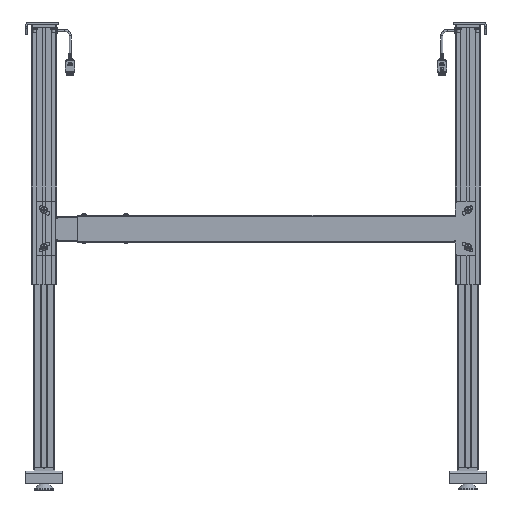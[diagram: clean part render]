
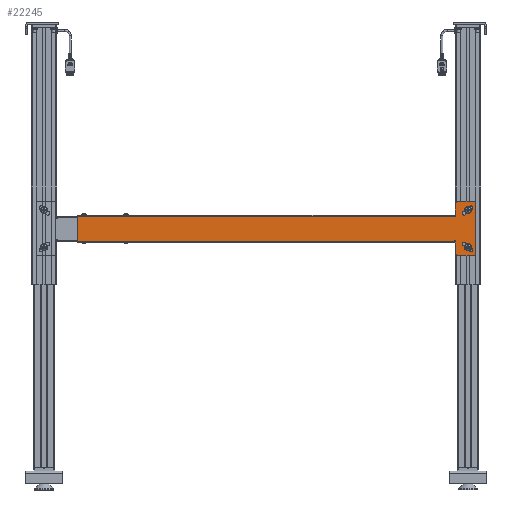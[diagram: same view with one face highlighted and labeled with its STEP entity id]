
A CAD part, left-side view. The second image highlights one B-rep face of the part: STEP entity #22245.
In plain terms, the highlighted planar face has unit normal (-1, 0, 0) as drawn and (0, 0, -1) by its records, which use the part's own axes.
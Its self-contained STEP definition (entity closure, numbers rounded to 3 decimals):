
#1613=CIRCLE('',#30230,4.75);
#1615=CIRCLE('',#30235,4.75);
#1623=CIRCLE('',#30252,4.75);
#1624=CIRCLE('',#30253,4.75);
#1625=CIRCLE('',#30254,10.);
#1626=CIRCLE('',#30255,10.);
#1627=CIRCLE('',#30256,1.75);
#1628=CIRCLE('',#30257,1.75);
#7229=ORIENTED_EDGE('',*,*,#10992,.F.);
#7230=ORIENTED_EDGE('',*,*,#10956,.F.);
#7231=ORIENTED_EDGE('',*,*,#10960,.F.);
#7232=ORIENTED_EDGE('',*,*,#10963,.F.);
#7233=ORIENTED_EDGE('',*,*,#10993,.F.);
#7234=ORIENTED_EDGE('',*,*,#10946,.F.);
#7235=ORIENTED_EDGE('',*,*,#10950,.F.);
#7236=ORIENTED_EDGE('',*,*,#10953,.F.);
#7237=ORIENTED_EDGE('',*,*,#10975,.F.);
#7238=ORIENTED_EDGE('',*,*,#10994,.T.);
#7239=ORIENTED_EDGE('',*,*,#10970,.F.);
#7240=ORIENTED_EDGE('',*,*,#10968,.F.);
#7241=ORIENTED_EDGE('',*,*,#10983,.F.);
#7242=ORIENTED_EDGE('',*,*,#10995,.T.);
#7243=ORIENTED_EDGE('',*,*,#10977,.F.);
#7244=ORIENTED_EDGE('',*,*,#10996,.F.);
#7245=ORIENTED_EDGE('',*,*,#10902,.T.);
#7246=ORIENTED_EDGE('',*,*,#10985,.F.);
#7247=ORIENTED_EDGE('',*,*,#10944,.T.);
#7248=ORIENTED_EDGE('',*,*,#10997,.F.);
#10902=EDGE_CURVE('',#13239,#13238,#15197,.T.);
#10944=EDGE_CURVE('',#13268,#13269,#15218,.T.);
#10946=EDGE_CURVE('',#13270,#13271,#15219,.T.);
#10950=EDGE_CURVE('',#13274,#13270,#1613,.T.);
#10953=EDGE_CURVE('',#13276,#13274,#15224,.T.);
#10956=EDGE_CURVE('',#13278,#13279,#15227,.T.);
#10960=EDGE_CURVE('',#13282,#13278,#1615,.T.);
#10963=EDGE_CURVE('',#13284,#13282,#15232,.T.);
#10968=EDGE_CURVE('',#13288,#13289,#15237,.T.);
#10970=EDGE_CURVE('',#13289,#13290,#15239,.T.);
#10975=EDGE_CURVE('',#13294,#13295,#15244,.T.);
#10977=EDGE_CURVE('',#13296,#13297,#15246,.T.);
#10983=EDGE_CURVE('',#13301,#13288,#15252,.T.);
#10985=EDGE_CURVE('',#13268,#13238,#15254,.T.);
#10992=EDGE_CURVE('',#13279,#13284,#1623,.T.);
#10993=EDGE_CURVE('',#13271,#13276,#1624,.T.);
#10994=EDGE_CURVE('',#13294,#13290,#1625,.T.);
#10995=EDGE_CURVE('',#13301,#13297,#1626,.T.);
#10996=EDGE_CURVE('',#13239,#13296,#1627,.T.);
#10997=EDGE_CURVE('',#13295,#13269,#1628,.T.);
#13238=VERTEX_POINT('',#44223);
#13239=VERTEX_POINT('',#44225);
#13268=VERTEX_POINT('',#44312);
#13269=VERTEX_POINT('',#44314);
#13270=VERTEX_POINT('',#44323);
#13271=VERTEX_POINT('',#44324);
#13274=VERTEX_POINT('',#44332);
#13276=VERTEX_POINT('',#44338);
#13278=VERTEX_POINT('',#44344);
#13279=VERTEX_POINT('',#44345);
#13282=VERTEX_POINT('',#44353);
#13284=VERTEX_POINT('',#44359);
#13288=VERTEX_POINT('',#44368);
#13289=VERTEX_POINT('',#44370);
#13290=VERTEX_POINT('',#44374);
#13294=VERTEX_POINT('',#44383);
#13295=VERTEX_POINT('',#44385);
#13296=VERTEX_POINT('',#44389);
#13297=VERTEX_POINT('',#44390);
#13301=VERTEX_POINT('',#44400);
#15197=LINE('',#44224,#17062);
#15218=LINE('',#44315,#17083);
#15219=LINE('',#44322,#17084);
#15224=LINE('',#44337,#17089);
#15227=LINE('',#44343,#17092);
#15232=LINE('',#44358,#17097);
#15237=LINE('',#44369,#17102);
#15239=LINE('',#44373,#17104);
#15244=LINE('',#44384,#17109);
#15246=LINE('',#44388,#17111);
#15252=LINE('',#44401,#17117);
#15254=LINE('',#44404,#17119);
#17062=VECTOR('',#35710,1000.);
#17083=VECTOR('',#35793,1000.);
#17084=VECTOR('',#35798,1000.);
#17089=VECTOR('',#35811,1000.);
#17092=VECTOR('',#35816,1000.);
#17097=VECTOR('',#35829,1000.);
#17102=VECTOR('',#35836,1000.);
#17104=VECTOR('',#35840,1000.);
#17109=VECTOR('',#35847,1000.);
#17111=VECTOR('',#35851,1000.);
#17117=VECTOR('',#35859,1000.);
#17119=VECTOR('',#35863,1000.);
#18654=EDGE_LOOP('',(#7229,#7230,#7231,#7232));
#18655=EDGE_LOOP('',(#7233,#7234,#7235,#7236));
#18656=EDGE_LOOP('',(#7237,#7238,#7239,#7240,#7241,#7242,#7243,#7244,#7245,
#7246,#7247,#7248));
#20237=FACE_BOUND('',#18654,.T.);
#20238=FACE_BOUND('',#18655,.T.);
#20239=FACE_BOUND('',#18656,.T.);
#21143=PLANE('',#30251);
#22245=ADVANCED_FACE('',(#20237,#20238,#20239),#21143,.T.);
#30230=AXIS2_PLACEMENT_3D('',#44331,#35804,#35805);
#30235=AXIS2_PLACEMENT_3D('',#44352,#35822,#35823);
#30251=AXIS2_PLACEMENT_3D('',#44412,#35878,#35879);
#30252=AXIS2_PLACEMENT_3D('',#44413,#35880,#35881);
#30253=AXIS2_PLACEMENT_3D('',#44414,#35882,#35883);
#30254=AXIS2_PLACEMENT_3D('',#44415,#35884,#35885);
#30255=AXIS2_PLACEMENT_3D('',#44416,#35886,#35887);
#30256=AXIS2_PLACEMENT_3D('',#44417,#35888,#35889);
#30257=AXIS2_PLACEMENT_3D('',#44418,#35890,#35891);
#35710=DIRECTION('',(1.,0.,0.));
#35793=DIRECTION('',(-1.,0.,0.));
#35798=DIRECTION('',(0.766,0.643,0.));
#35804=DIRECTION('',(0.,0.,-1.));
#35805=DIRECTION('',(-1.,0.,0.));
#35811=DIRECTION('',(-0.766,-0.643,0.));
#35816=DIRECTION('',(0.766,-0.643,0.));
#35822=DIRECTION('',(0.,0.,-1.));
#35823=DIRECTION('',(-1.,0.,0.));
#35829=DIRECTION('',(-0.766,0.643,0.));
#35836=DIRECTION('',(0.,-1.,0.));
#35840=DIRECTION('',(1.,0.,0.));
#35847=DIRECTION('',(0.,1.,0.));
#35851=DIRECTION('',(0.,1.,0.));
#35859=DIRECTION('',(-1.,0.,0.));
#35863=DIRECTION('',(0.,1.,0.));
#35878=DIRECTION('',(0.,0.,-1.));
#35879=DIRECTION('',(-1.,0.,0.));
#35880=DIRECTION('',(0.,0.,-1.));
#35881=DIRECTION('',(-1.,0.,0.));
#35882=DIRECTION('',(0.,0.,-1.));
#35883=DIRECTION('',(-1.,0.,0.));
#35884=DIRECTION('',(0.,0.,-1.));
#35885=DIRECTION('',(-1.,0.,0.));
#35886=DIRECTION('',(0.,0.,-1.));
#35887=DIRECTION('',(-1.,0.,0.));
#35888=DIRECTION('',(0.,0.,-1.));
#35889=DIRECTION('',(-1.,0.,0.));
#35890=DIRECTION('',(0.,0.,-1.));
#35891=DIRECTION('',(1.,0.,0.));
#44223=CARTESIAN_POINT('',(924.,29.9,-2.5));
#44224=CARTESIAN_POINT('',(26.,29.9,-2.5));
#44225=CARTESIAN_POINT('',(26.747,29.9,-2.5));
#44312=CARTESIAN_POINT('',(924.,-29.9,-2.5));
#44314=CARTESIAN_POINT('',(26.754,-29.9,-2.5));
#44315=CARTESIAN_POINT('',(924.,-29.9,-2.5));
#44322=CARTESIAN_POINT('',(16.196,-19.301,-2.5));
#44323=CARTESIAN_POINT('',(-16.053,-46.361,-2.5));
#44324=CARTESIAN_POINT('',(-0.349,-33.184,-2.5));
#44331=CARTESIAN_POINT('',(-13.,-50.,-2.5));
#44332=CARTESIAN_POINT('',(-9.947,-53.639,-2.5));
#44337=CARTESIAN_POINT('',(22.302,-26.579,-2.5));
#44338=CARTESIAN_POINT('',(5.757,-40.462,-2.5));
#44343=CARTESIAN_POINT('',(22.302,26.579,-2.5));
#44344=CARTESIAN_POINT('',(-9.947,53.639,-2.5));
#44345=CARTESIAN_POINT('',(5.757,40.462,-2.5));
#44352=CARTESIAN_POINT('',(-13.,50.,-2.5));
#44353=CARTESIAN_POINT('',(-16.053,46.361,-2.5));
#44358=CARTESIAN_POINT('',(16.196,19.301,-2.5));
#44359=CARTESIAN_POINT('',(-0.349,33.184,-2.5));
#44368=CARTESIAN_POINT('',(-24.,65.,-2.5));
#44369=CARTESIAN_POINT('',(-24.,65.,-2.5));
#44370=CARTESIAN_POINT('',(-24.,-65.,-2.5));
#44373=CARTESIAN_POINT('',(-24.,-65.,-2.5));
#44374=CARTESIAN_POINT('',(14.,-65.,-2.5));
#44383=CARTESIAN_POINT('',(24.,-55.,-2.5));
#44384=CARTESIAN_POINT('',(24.,65.,-2.5));
#44385=CARTESIAN_POINT('',(24.,-31.436,-2.5));
#44388=CARTESIAN_POINT('',(24.,65.,-2.5));
#44389=CARTESIAN_POINT('',(24.,31.436,-2.5));
#44390=CARTESIAN_POINT('',(24.,55.,-2.5));
#44400=CARTESIAN_POINT('',(14.,65.,-2.5));
#44401=CARTESIAN_POINT('',(-24.,65.,-2.5));
#44404=CARTESIAN_POINT('',(924.,30.,-2.5));
#44412=CARTESIAN_POINT('',(0.,0.,-2.5));
#44413=CARTESIAN_POINT('',(2.704,36.823,-2.5));
#44414=CARTESIAN_POINT('',(2.704,-36.823,-2.5));
#44415=CARTESIAN_POINT('',(14.,-55.,-2.5));
#44416=CARTESIAN_POINT('',(14.,55.,-2.5));
#44417=CARTESIAN_POINT('',(25.,30.,-2.5));
#44418=CARTESIAN_POINT('',(25.,-30.,-2.5));
